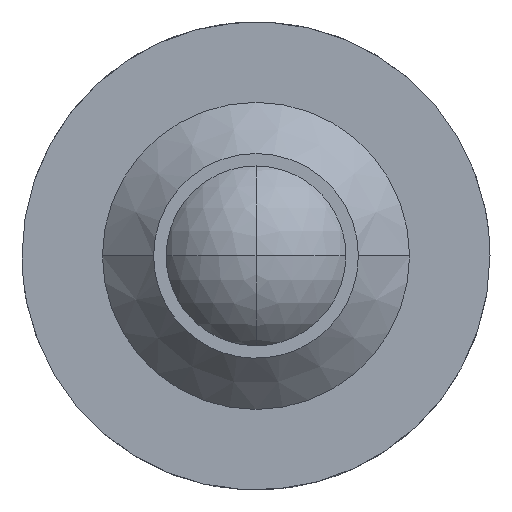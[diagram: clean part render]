
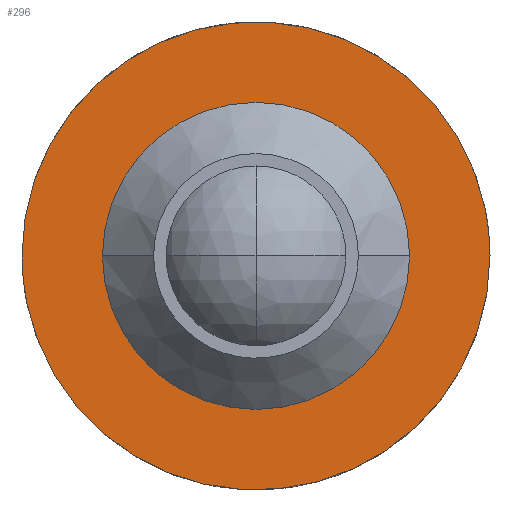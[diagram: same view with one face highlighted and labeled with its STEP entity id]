
A CAD part, top view. The second image highlights one B-rep face of the part: STEP entity #296.
In plain terms, the highlighted planar face has unit normal (0, 0, 1).
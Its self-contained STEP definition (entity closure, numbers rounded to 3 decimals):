
#70=CARTESIAN_POINT('Vertex',(10.5,0.,2.8)) ;
#73=CARTESIAN_POINT('Axis2P3D Location',(0.,0.,2.8)) ;
#77=CARTESIAN_POINT('Vertex',(-10.5,0.,2.8)) ;
#215=CARTESIAN_POINT('Axis2P3D Location',(0.,0.,2.8)) ;
#227=CARTESIAN_POINT('Axis2P3D Location',(-10.5,0.,2.8)) ;
#233=CARTESIAN_POINT('Control Point',(-16.,0.,2.8)) ;
#234=CARTESIAN_POINT('Control Point',(-16.,1.568,2.8)) ;
#235=CARTESIAN_POINT('Control Point',(-15.808,3.135,2.8)) ;
#236=CARTESIAN_POINT('Control Point',(-15.424,4.672,2.8)) ;
#237=CARTESIAN_POINT('Control Point',(-14.288,7.619,2.8)) ;
#238=CARTESIAN_POINT('Control Point',(-12.473,10.205,2.8)) ;
#239=CARTESIAN_POINT('Control Point',(-11.412,11.38,2.8)) ;
#240=CARTESIAN_POINT('Control Point',(-9.022,13.446,2.8)) ;
#241=CARTESIAN_POINT('Control Point',(-6.205,14.874,2.8)) ;
#242=CARTESIAN_POINT('Control Point',(-4.715,15.411,2.8)) ;
#243=CARTESIAN_POINT('Control Point',(-1.634,16.109,2.8)) ;
#244=CARTESIAN_POINT('Control Point',(1.524,16.044,2.8)) ;
#245=CARTESIAN_POINT('Control Point',(3.091,15.817,2.8)) ;
#246=CARTESIAN_POINT('Control Point',(6.138,14.984,2.8)) ;
#247=CARTESIAN_POINT('Control Point',(8.894,13.44,2.8)) ;
#248=CARTESIAN_POINT('Control Point',(10.17,12.502,2.8)) ;
#249=CARTESIAN_POINT('Control Point',(12.466,10.333,2.8)) ;
#250=CARTESIAN_POINT('Control Point',(14.171,7.674,2.8)) ;
#251=CARTESIAN_POINT('Control Point',(14.856,6.246,2.8)) ;
#252=CARTESIAN_POINT('Control Point',(15.567,4.131,2.8)) ;
#253=CARTESIAN_POINT('Control Point',(15.902,1.939,2.8)) ;
#254=CARTESIAN_POINT('Control Point',(15.967,1.294,2.8)) ;
#255=CARTESIAN_POINT('Control Point',(16.,0.647,2.8)) ;
#256=CARTESIAN_POINT('Control Point',(16.,0.,2.8)) ;
#257=CARTESIAN_POINT('Vertex',(-16.,0.,2.8)) ;
#259=CARTESIAN_POINT('Vertex',(16.,0.,2.8)) ;
#263=CARTESIAN_POINT('Control Point',(16.,0.,2.8)) ;
#264=CARTESIAN_POINT('Control Point',(16.,-1.568,2.8)) ;
#265=CARTESIAN_POINT('Control Point',(15.808,-3.135,2.8)) ;
#266=CARTESIAN_POINT('Control Point',(15.424,-4.672,2.8)) ;
#267=CARTESIAN_POINT('Control Point',(14.288,-7.619,2.8)) ;
#268=CARTESIAN_POINT('Control Point',(12.473,-10.205,2.8)) ;
#269=CARTESIAN_POINT('Control Point',(11.412,-11.38,2.8)) ;
#270=CARTESIAN_POINT('Control Point',(9.022,-13.446,2.8)) ;
#271=CARTESIAN_POINT('Control Point',(6.205,-14.874,2.8)) ;
#272=CARTESIAN_POINT('Control Point',(4.715,-15.411,2.8)) ;
#273=CARTESIAN_POINT('Control Point',(1.634,-16.109,2.8)) ;
#274=CARTESIAN_POINT('Control Point',(-1.524,-16.044,2.8)) ;
#275=CARTESIAN_POINT('Control Point',(-3.091,-15.817,2.8)) ;
#276=CARTESIAN_POINT('Control Point',(-6.138,-14.984,2.8)) ;
#277=CARTESIAN_POINT('Control Point',(-8.894,-13.44,2.8)) ;
#278=CARTESIAN_POINT('Control Point',(-10.17,-12.502,2.8)) ;
#279=CARTESIAN_POINT('Control Point',(-12.466,-10.333,2.8)) ;
#280=CARTESIAN_POINT('Control Point',(-14.171,-7.674,2.8)) ;
#281=CARTESIAN_POINT('Control Point',(-14.856,-6.246,2.8)) ;
#282=CARTESIAN_POINT('Control Point',(-15.567,-4.131,2.8)) ;
#283=CARTESIAN_POINT('Control Point',(-15.902,-1.939,2.8)) ;
#284=CARTESIAN_POINT('Control Point',(-15.967,-1.294,2.8)) ;
#285=CARTESIAN_POINT('Control Point',(-16.,-0.647,2.8)) ;
#286=CARTESIAN_POINT('Control Point',(-16.,0.,2.8)) ;
#74=DIRECTION('Axis2P3D Direction',(0.,0.,-1.)) ;
#216=DIRECTION('Axis2P3D Direction',(0.,0.,-1.)) ;
#228=DIRECTION('Axis2P3D Direction',(0.,0.,1.)) ;
#229=DIRECTION('Axis2P3D XDirection',(1.,0.,0.)) ;
#75=AXIS2_PLACEMENT_3D('Circle Axis2P3D',#73,#74,$) ;
#217=AXIS2_PLACEMENT_3D('Circle Axis2P3D',#215,#216,$) ;
#230=AXIS2_PLACEMENT_3D('Plane Axis2P3D',#227,#228,#229) ;
#289=ORIENTED_EDGE('',*,*,#261,.F.) ;
#290=ORIENTED_EDGE('',*,*,#287,.F.) ;
#293=ORIENTED_EDGE('',*,*,#79,.T.) ;
#294=ORIENTED_EDGE('',*,*,#219,.T.) ;
#295=FACE_BOUND('',#292,.T.) ;
#296=ADVANCED_FACE('NONE',(#291,#295),#231,.T.) ;
#232=B_SPLINE_CURVE_WITH_KNOTS('',5,(#233,#234,#235,#236,#237,#238,#239,#240,#241,#242,#243,#244,#245,#246,#247,#248,#249,#250,#251,#252,#253,#254,#255,#256),.UNSPECIFIED.,.F.,.U.,(6,3,3,3,3,3,3,6),(0.,11.085,22.17,33.255,44.34,55.425,66.51,71.085),.UNSPECIFIED.) ;
#262=B_SPLINE_CURVE_WITH_KNOTS('',5,(#263,#264,#265,#266,#267,#268,#269,#270,#271,#272,#273,#274,#275,#276,#277,#278,#279,#280,#281,#282,#283,#284,#285,#286),.UNSPECIFIED.,.F.,.U.,(6,3,3,3,3,3,3,6),(0.,11.085,22.17,33.255,44.34,55.425,66.51,71.085),.UNSPECIFIED.) ;
#76=CIRCLE('generated circle',#75,10.5) ;
#218=CIRCLE('generated circle',#217,10.5) ;
#79=EDGE_CURVE('',#78,#71,#76,.T.) ;
#219=EDGE_CURVE('',#71,#78,#218,.T.) ;
#261=EDGE_CURVE('',#258,#260,#232,.T.) ;
#287=EDGE_CURVE('',#260,#258,#262,.T.) ;
#288=EDGE_LOOP('',(#289,#290)) ;
#292=EDGE_LOOP('',(#293,#294)) ;
#291=FACE_OUTER_BOUND('',#288,.T.) ;
#231=PLANE('Plane',#230) ;
#71=VERTEX_POINT('',#70) ;
#78=VERTEX_POINT('',#77) ;
#258=VERTEX_POINT('',#257) ;
#260=VERTEX_POINT('',#259) ;
